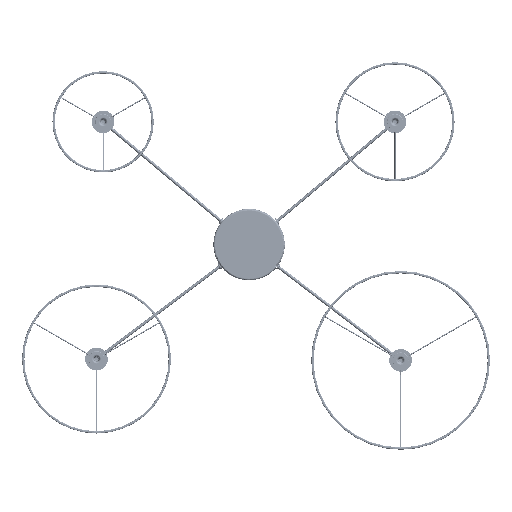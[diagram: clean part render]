
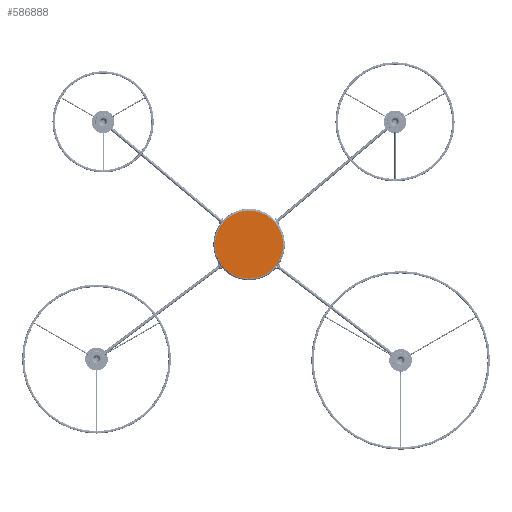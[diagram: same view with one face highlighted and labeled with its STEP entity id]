
A CAD part, front view. The second image highlights one B-rep face of the part: STEP entity #586888.
In plain terms, the highlighted planar face has unit normal (0, -1, 0).
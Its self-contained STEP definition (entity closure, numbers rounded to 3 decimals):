
#154025=PLANE('',#664332);
#193464=FACE_OUTER_BOUND('',#235051,.T.);
#235051=EDGE_LOOP('',(#543131));
#252169=CIRCLE('',#664327,57.);
#300284=VERTEX_POINT('',#1033206);
#381234=EDGE_CURVE('',#300284,#300284,#252169,.T.);
#543131=ORIENTED_EDGE('',*,*,#381234,.F.);
#586888=ADVANCED_FACE('',(#193464),#154025,.T.);
#664327=AXIS2_PLACEMENT_3D('',#1033207,#858811,#858812);
#664332=AXIS2_PLACEMENT_3D('',#1033215,#858822,#858823);
#858811=DIRECTION('center_axis',(0.,1.,0.));
#858812=DIRECTION('ref_axis',(1.,0.,0.));
#858822=DIRECTION('center_axis',(0.,-1.,0.));
#858823=DIRECTION('ref_axis',(1.,0.,0.));
#1033206=CARTESIAN_POINT('',(0.,947.18,57.));
#1033207=CARTESIAN_POINT('Origin',(0.,947.18,0.));
#1033215=CARTESIAN_POINT('Origin',(0.,947.18,0.));
